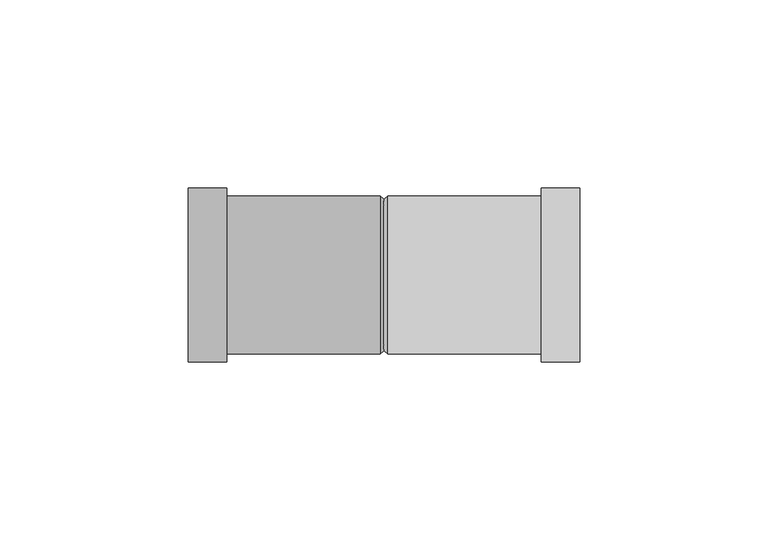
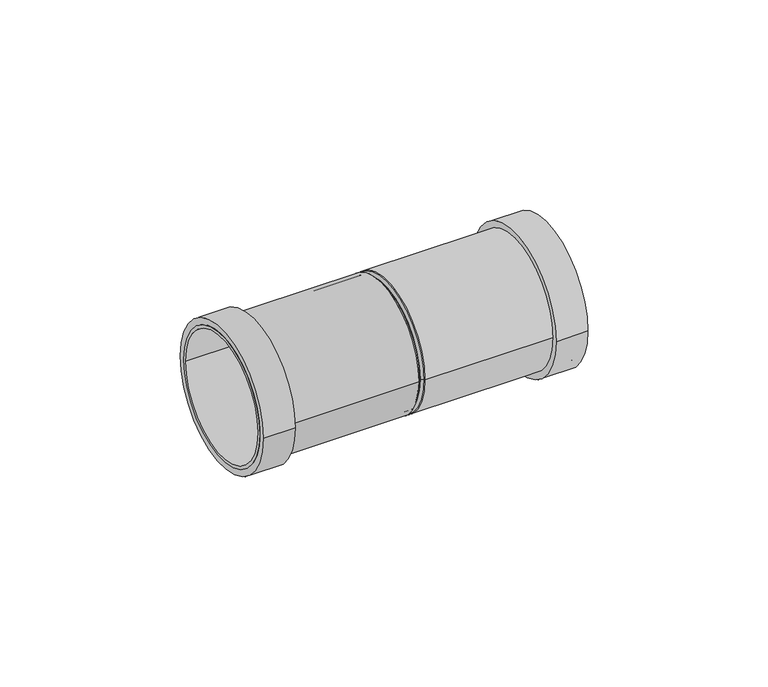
"""IFC4 building model written with IfcOpenShell, lengths in millimetres: pipe fitting geometry, Superdrain HTMM-Double socket : Superdrain HTMM-Double socket."""

from ifc_helpers import new_model, si_unit, point, frame, origin, origin_2d, place, context, project, spatial, polyline, circle_curve, trimmed, segment, composite_curve, outline, extrude, source, transform, mapped, element, save
from ifc_brep_helpers import plane_surface, revolved_surface, advanced_brep


def pipe_fitting_b53d4325(model_context):
    return source(origin(), model_context, "Body", "SolidModel", [
        extrude(outline(composite_curve([segment(trimmed(circle_curve(origin_2d(), 21.0), [point((21.0, 0.0))], [point((-21.0, 0.0))], False, "CARTESIAN"), True, "CONTINUOUS"), segment(trimmed(circle_curve(origin_2d(), 21.0), [point((-21.0, 0.0))], [point((21.0, 0.0))], False, "CARTESIAN"), True, "CONTINUOUS")], self_intersect=False), holes=[composite_curve([segment(trimmed(circle_curve(origin_2d(), 20.0), [point((20.0, 0.0))], [point((-20.0, 0.0))], True, "CARTESIAN"), True, "CONTINUOUS"), segment(trimmed(circle_curve(origin_2d(), 20.0), [point((-20.0, 0.0))], [point((20.0, 0.0))], True, "CARTESIAN"), True, "CONTINUOUS")], self_intersect=False)]), frame((1.0, 0.0, 0.0), z_axis=(1.0, 0.0, 0.0), x_axis=(0.0, 1.0, 0.0)), (0.0, 0.0, 1.0), 51.0),
        extrude(outline(composite_curve([segment(trimmed(circle_curve(origin_2d(), 23.1), [point((23.1, 0.0))], [point((-23.1, 0.0))], False, "CARTESIAN"), True, "CONTINUOUS"), segment(trimmed(circle_curve(origin_2d(), 23.1), [point((-23.1, 0.0))], [point((23.1, 0.0))], False, "CARTESIAN"), True, "CONTINUOUS")], self_intersect=False), holes=[composite_curve([segment(trimmed(circle_curve(origin_2d(), 20.0), [point((20.0, 0.0))], [point((-20.0, 0.0))], True, "CARTESIAN"), True, "CONTINUOUS"), segment(trimmed(circle_curve(origin_2d(), 20.0), [point((-20.0, 0.0))], [point((20.0, 0.0))], True, "CARTESIAN"), True, "CONTINUOUS")], self_intersect=False)]), frame((41.8, 0.0, 0.0), z_axis=(1.0, 0.0, 0.0), x_axis=(0.0, 1.0, 0.0)), (0.0, 0.0, 1.0), 10.2),
        advanced_brep(
        [(0.0, 20.0, 0.0), (0.0, -20.0, 0.0), (1.0, 21.0, 0.0), (1.0, -21.0, 0.0)],
        [
            (0, 1, circle_curve(frame((0.0, 0.0, 0.0), z_axis=(-1.0, 0.0, 0.0), x_axis=(0.0, 1.0000000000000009, 0.0)), 20.0)),
            (1, 0, circle_curve(frame((0.0, 0.0, 0.0), z_axis=(-1.0, 0.0, 0.0), x_axis=(0.0, -1.0000000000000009, 0.0)), 20.0)),
            (2, 3, circle_curve(frame((1.0, 0.0, 0.0), z_axis=(1.0, 0.0, 0.0), x_axis=(0.0, -1.0000000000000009, 0.0)), 21.0)),
            (3, 2, circle_curve(frame((1.0, 0.0, 0.0), z_axis=(1.0, 0.0, 0.0), x_axis=(0.0, 1.0000000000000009, 0.0)), 21.0)),
            (3, 1),
            (0, 2),
        ],
        [
            plane_surface(frame((0.0, 0.0, 0.0), z_axis=(-1.0, 0.0, 0.0), x_axis=(0.0, 0.0, -1.0))),
            plane_surface(frame((1.0, 0.0, 0.0), z_axis=(1.0, 0.0, 0.0), x_axis=(0.0, 0.0, -1.0))),
            revolved_surface(polyline([(-3.552713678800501e-15, 19.999999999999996, 0.0), (1.0, 21.0, 0.0)]), (-20.0, 0.0, 0.0), (1.0000000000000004, 0.0, 0.0)),
            revolved_surface(polyline([(-3.552713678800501e-15, -19.999999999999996, 0.0), (1.0, -21.0, 0.0)]), (-20.0, 0.0, 0.0), (1.0000000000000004, 0.0, 0.0)),
        ],
        [
            (0, [[1, 2]]),
            (1, [[3, 4]]),
            (2, [[-4, 5, -1, 6]]),
            (3, [[-3, -6, -2, -5]]),
        ],
    ),
        extrude(outline(composite_curve([segment(trimmed(circle_curve(origin_2d(), 21.0), [point((-21.0, 0.0))], [point((21.0, 0.0))], False, "CARTESIAN"), True, "CONTINUOUS"), segment(trimmed(circle_curve(origin_2d(), 21.0), [point((21.0, 0.0))], [point((-21.0, 0.0))], False, "CARTESIAN"), True, "CONTINUOUS")], self_intersect=False), holes=[composite_curve([segment(trimmed(circle_curve(origin_2d(), 20.0), [point((-20.0, 0.0))], [point((20.0, 0.0))], True, "CARTESIAN"), True, "CONTINUOUS"), segment(trimmed(circle_curve(origin_2d(), 20.0), [point((20.0, 0.0))], [point((-20.0, 0.0))], True, "CARTESIAN"), True, "CONTINUOUS")], self_intersect=False)]), frame((-52.0, 0.0, 0.0), z_axis=(1.0, 0.0, 0.0), x_axis=(0.0, 1.0, 0.0)), (0.0, 0.0, 1.0), 51.0),
        extrude(outline(composite_curve([segment(trimmed(circle_curve(origin_2d(), 23.1), [point((-23.1, 0.0))], [point((23.1, 0.0))], False, "CARTESIAN"), True, "CONTINUOUS"), segment(trimmed(circle_curve(origin_2d(), 23.1), [point((23.1, 0.0))], [point((-23.1, 0.0))], False, "CARTESIAN"), True, "CONTINUOUS")], self_intersect=False), holes=[composite_curve([segment(trimmed(circle_curve(origin_2d(), 20.0), [point((-20.0, 0.0))], [point((20.0, 0.0))], True, "CARTESIAN"), True, "CONTINUOUS"), segment(trimmed(circle_curve(origin_2d(), 20.0), [point((20.0, 0.0))], [point((-20.0, 0.0))], True, "CARTESIAN"), True, "CONTINUOUS")], self_intersect=False)]), frame((-52.0, 0.0, 0.0), z_axis=(1.0, 0.0, 0.0), x_axis=(0.0, 1.0, 0.0)), (0.0, 0.0, 1.0), 10.2),
        advanced_brep(
        [(0.0, -20.0, 0.0), (0.0, 20.0, 0.0), (-1.0, -21.0, 0.0), (-1.0, 21.0, 0.0)],
        [
            (0, 1, circle_curve(frame((0.0, 0.0, 0.0), z_axis=(1.0, 0.0, 0.0), x_axis=(0.0, -1.0, 0.0)), 20.0)),
            (1, 0, circle_curve(frame((0.0, 0.0, 0.0), z_axis=(1.0, 0.0, 0.0), x_axis=(0.0, 1.0, 0.0)), 20.0)),
            (2, 3, circle_curve(frame((-1.0, 0.0, 0.0), z_axis=(-1.0, 0.0, 0.0), x_axis=(0.0, 1.0, 0.0)), 21.0)),
            (3, 2, circle_curve(frame((-1.0, 0.0, 0.0), z_axis=(-1.0, 0.0, 0.0), x_axis=(0.0, -1.0, 0.0)), 21.0)),
            (3, 1),
            (0, 2),
        ],
        [
            plane_surface(frame((0.0, 0.0, 0.0), z_axis=(1.0, 0.0, 0.0), x_axis=(0.0, 0.0, -1.0))),
            plane_surface(frame((-1.0, 0.0, 0.0), z_axis=(-1.0, 0.0, 0.0), x_axis=(0.0, 0.0, -1.0))),
            revolved_surface(polyline([(0.0, -20.0, 0.0), (-1.0, -21.0, 0.0)]), (20.0, 0.0, 0.0), (-1.0, 0.0, 0.0)),
            revolved_surface(polyline([(0.0, 20.0, 0.0), (-1.0, 21.0, 0.0)]), (20.0, 0.0, 0.0), (-1.0, 0.0, 0.0)),
        ],
        [
            (0, [[1, 2]]),
            (1, [[3, 4]]),
            (2, [[-4, 5, -1, 6]]),
            (3, [[-3, -6, -2, -5]]),
        ],
    ),
        extrude(outline(composite_curve([segment(trimmed(circle_curve(origin_2d(), 20.0), [point((-20.0, 0.0))], [point((20.0, 0.0))], False, "CARTESIAN"), True, "CONTINUOUS"), segment(trimmed(circle_curve(origin_2d(), 20.0), [point((20.0, 0.0))], [point((-20.0, 0.0))], False, "CARTESIAN"), True, "CONTINUOUS")], self_intersect=False)), frame((-1.0, 0.0, 0.0), z_axis=(1.0, 0.0, 0.0), x_axis=(0.0, 1.0, 0.0)), (0.0, 0.0, 1.0), 2.0),
    ])


if __name__ == "__main__":
    model = new_model("IFC4")
    model_context = context("Model", 3, world=origin())
    ifc_project = project(units=[si_unit("LENGTHUNIT", "METRE", prefix="MILLI")], contexts=[model_context])
    site = spatial("IfcSite", under=ifc_project)
    building = spatial("IfcBuilding", under=site)
    placement = place(None, origin())
    pipe_fitting_shape = pipe_fitting_b53d4325(model_context)
    element("IfcPipeFitting", 1, ObjectType="Superdrain HTMM-Double socket : Superdrain HTMM-Double socket", at=placement, inside=building, context=model_context, shape_type="MappedRepresentation", body=[
        mapped(pipe_fitting_shape, transform((0.0, 0.0, 0.0), x_axis=(1.0, 0.0, 0.0), y_axis=(0.0, 1.0, 0.0), z_axis=(0.0, 0.0, 1.0))),
    ])
    save(model, "model.ifc")
